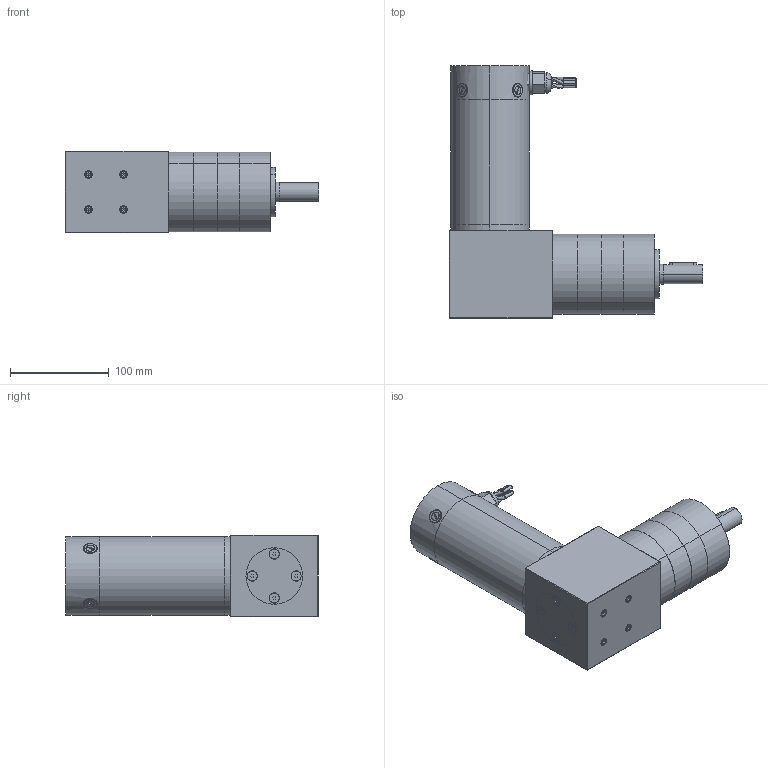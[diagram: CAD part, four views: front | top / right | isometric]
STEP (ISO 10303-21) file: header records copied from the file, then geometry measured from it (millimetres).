
FILE_DESCRIPTION (( 'STEP AP203' ), '1' );
FILE_NAME ('d33655agra3.step', '2018-12-07T19:41:12', ( '' ), ( '' ), 'SwSTEP 2.0', 'SolidWorks 2017', '' );
FILE_SCHEMA (( 'CONFIG_CONTROL_DESIGN' ));
Length unit declared in the file: inch
Products named in the file (1): d33655agra3
Bounding box: 256.62 x 255.27 x 82.55 mm (x, y, z)
Volume: 2148058.8 mm3; surface area: 228891 mm2
Topology: 29 solids, 29 shells, 1241 faces, 3111 edges, 1973 vertices
Faces by surface type: cylinder 717, plane 364, cone 97, torus 39, bspline 16, sphere 8
Entity records: 56919 total; most frequent: CARTESIAN_POINT 29784, ORIENTED_EDGE 6174, DIRECTION 5246, EDGE_CURVE 3087, AXIS2_PLACEMENT_3D 1979, VERTEX_POINT 1973, EDGE_LOOP 1346, VECTOR 1288
